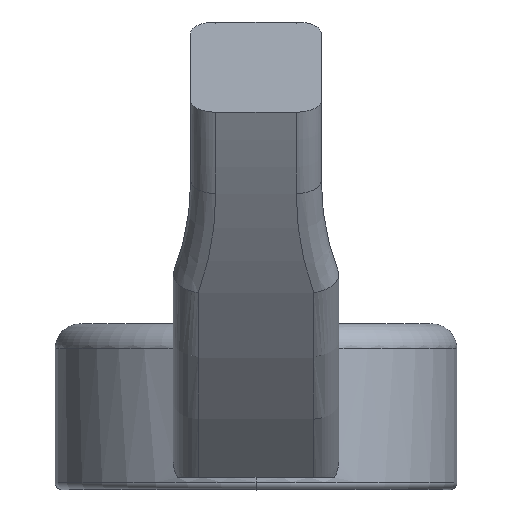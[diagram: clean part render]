
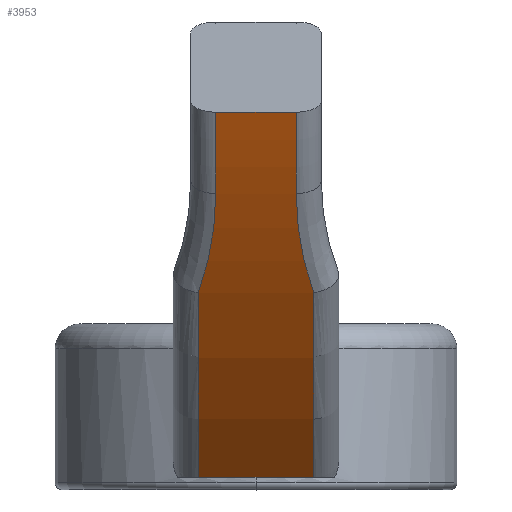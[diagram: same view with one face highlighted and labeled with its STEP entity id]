
A CAD part, top view. The second image highlights one B-rep face of the part: STEP entity #3953.
In plain terms, the highlighted cylindrical face has radius 26 mm (diameter 52 mm), a partial arc.
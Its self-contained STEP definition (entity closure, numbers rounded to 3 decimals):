
#51 = CARTESIAN_POINT ( 'NONE',  ( 0.921, 4.534, 7.741 ) ) ;
#144 = VECTOR ( 'NONE', #769, 1000. ) ;
#162 = ORIENTED_EDGE ( 'NONE', *, *, #3880, .T. ) ;
#239 = CARTESIAN_POINT ( 'NONE',  ( 1.65, 0.238, 4. ) ) ;
#298 = EDGE_LOOP ( 'NONE', ( #3493, #162, #423, #1775, #1126, #2826, #3937, #1821, #2846 ) ) ;
#370 = DIRECTION ( 'NONE',  ( 0., 0., -1. ) ) ;
#382 = EDGE_CURVE ( 'NONE', #454, #3586, #2721, .T. ) ;
#423 = ORIENTED_EDGE ( 'NONE', *, *, #1211, .F. ) ;
#450 = CARTESIAN_POINT ( 'NONE',  ( 1.65, 0.238, 4. ) ) ;
#451 = AXIS2_PLACEMENT_3D ( 'NONE', #2844, #2539, #370 ) ;
#454 = VERTEX_POINT ( 'NONE', #2020 ) ;
#510 = CARTESIAN_POINT ( 'NONE',  ( -0.8, 19.324, -13.656 ) ) ;
#523 = VECTOR ( 'NONE', #3700, 1000. ) ;
#569 = B_SPLINE_CURVE_WITH_KNOTS ( 'NONE', 3,
 ( #3670, #51, #1943, #1921 ),
 .UNSPECIFIED., .F., .F.,
 ( 4, 4 ),
 ( 0., 0.002 ),
 .UNSPECIFIED. ) ;
#593 = VERTEX_POINT ( 'NONE', #3607 ) ;
#769 = DIRECTION ( 'NONE',  ( -1., 0., 0. ) ) ;
#786 = CIRCLE ( 'NONE', #2642, 26. ) ;
#916 = VERTEX_POINT ( 'NONE', #3307 ) ;
#979 = FACE_OUTER_BOUND ( 'NONE', #298, .T. ) ;
#988 = AXIS2_PLACEMENT_3D ( 'NONE', #510, #3526, #3850 ) ;
#1021 = EDGE_CURVE ( 'NONE', #3058, #3175, #1523, .T. ) ;
#1060 = CARTESIAN_POINT ( 'NONE',  ( 1.65, 19.324, -13.656 ) ) ;
#1126 = ORIENTED_EDGE ( 'NONE', *, *, #2485, .T. ) ;
#1177 = CARTESIAN_POINT ( 'NONE',  ( 0.8, 7.5, 9.5 ) ) ;
#1211 = EDGE_CURVE ( 'NONE', #3182, #916, #2617, .T. ) ;
#1356 = EDGE_CURVE ( 'NONE', #3543, #3182, #2640, .T. ) ;
#1467 = EDGE_CURVE ( 'NONE', #593, #3058, #569, .T. ) ;
#1523 = CIRCLE ( 'NONE', #451, 26. ) ;
#1775 = ORIENTED_EDGE ( 'NONE', *, *, #1356, .F. ) ;
#1821 = ORIENTED_EDGE ( 'NONE', *, *, #1995, .T. ) ;
#1921 = CARTESIAN_POINT ( 'NONE',  ( 0.8, 5.879, 8.598 ) ) ;
#1943 = CARTESIAN_POINT ( 'NONE',  ( 0.8, 5.188, 8.181 ) ) ;
#1995 = EDGE_CURVE ( 'NONE', #3175, #454, #2102, .T. ) ;
#2020 = CARTESIAN_POINT ( 'NONE',  ( -0.8, 7.5, 9.5 ) ) ;
#2102 = LINE ( 'NONE', #2155, #523 ) ;
#2155 = CARTESIAN_POINT ( 'NONE',  ( 1.65, 7.5, 9.5 ) ) ;
#2184 = AXIS2_PLACEMENT_3D ( 'NONE', #3736, #2210, #3435 ) ;
#2206 = EDGE_CURVE ( 'NONE', #3586, #3234, #2734, .T. ) ;
#2210 = DIRECTION ( 'NONE',  ( 1., 0., 0. ) ) ;
#2273 = DIRECTION ( 'NONE',  ( -1., 0., 0. ) ) ;
#2420 = CARTESIAN_POINT ( 'NONE',  ( -0.921, 4.534, 7.741 ) ) ;
#2432 = DIRECTION ( 'NONE',  ( 0., 0., -1. ) ) ;
#2472 = CARTESIAN_POINT ( 'NONE',  ( 1.15, 19.324, -13.656 ) ) ;
#2485 = EDGE_CURVE ( 'NONE', #3543, #593, #786, .T. ) ;
#2539 = DIRECTION ( 'NONE',  ( -1., 0., 0. ) ) ;
#2585 = CYLINDRICAL_SURFACE ( 'NONE', #3597, 26. ) ;
#2617 = LINE ( 'NONE', #450, #144 ) ;
#2640 = LINE ( 'NONE', #239, #3011 ) ;
#2642 = AXIS2_PLACEMENT_3D ( 'NONE', #2472, #3649, #2432 ) ;
#2677 = DIRECTION ( 'NONE',  ( -1., 0., 0. ) ) ;
#2699 = CARTESIAN_POINT ( 'NONE',  ( -0.8, 5.879, 8.598 ) ) ;
#2721 = CIRCLE ( 'NONE', #988, 26. ) ;
#2734 = B_SPLINE_CURVE_WITH_KNOTS ( 'NONE', 3,
 ( #3296, #3729, #2420, #3314 ),
 .UNSPECIFIED., .F., .F.,
 ( 4, 4 ),
 ( 0., 0.002 ),
 .UNSPECIFIED. ) ;
#2826 = ORIENTED_EDGE ( 'NONE', *, *, #1467, .T. ) ;
#2844 = CARTESIAN_POINT ( 'NONE',  ( 0.8, 19.324, -13.656 ) ) ;
#2846 = ORIENTED_EDGE ( 'NONE', *, *, #382, .T. ) ;
#3011 = VECTOR ( 'NONE', #2677, 1000. ) ;
#3058 = VERTEX_POINT ( 'NONE', #3499 ) ;
#3175 = VERTEX_POINT ( 'NONE', #1177 ) ;
#3182 = VERTEX_POINT ( 'NONE', #3639 ) ;
#3234 = VERTEX_POINT ( 'NONE', #3920 ) ;
#3296 = CARTESIAN_POINT ( 'NONE',  ( -0.8, 5.879, 8.598 ) ) ;
#3307 = CARTESIAN_POINT ( 'NONE',  ( -1.15, 0.238, 4. ) ) ;
#3314 = CARTESIAN_POINT ( 'NONE',  ( -1.15, 3.911, 7.283 ) ) ;
#3401 = CIRCLE ( 'NONE', #2184, 26. ) ;
#3435 = DIRECTION ( 'NONE',  ( 0., 0., -1. ) ) ;
#3493 = ORIENTED_EDGE ( 'NONE', *, *, #2206, .T. ) ;
#3497 = DIRECTION ( 'NONE',  ( 0., 0., 1. ) ) ;
#3499 = CARTESIAN_POINT ( 'NONE',  ( 0.8, 5.879, 8.598 ) ) ;
#3526 = DIRECTION ( 'NONE',  ( 1., 0., 0. ) ) ;
#3543 = VERTEX_POINT ( 'NONE', #3815 ) ;
#3586 = VERTEX_POINT ( 'NONE', #2699 ) ;
#3597 = AXIS2_PLACEMENT_3D ( 'NONE', #1060, #2273, #3497 ) ;
#3607 = CARTESIAN_POINT ( 'NONE',  ( 1.15, 3.911, 7.283 ) ) ;
#3639 = CARTESIAN_POINT ( 'NONE',  ( 0., 0.238, 4. ) ) ;
#3649 = DIRECTION ( 'NONE',  ( -1., 0., 0. ) ) ;
#3670 = CARTESIAN_POINT ( 'NONE',  ( 1.15, 3.911, 7.283 ) ) ;
#3700 = DIRECTION ( 'NONE',  ( -1., 0., 0. ) ) ;
#3729 = CARTESIAN_POINT ( 'NONE',  ( -0.8, 5.188, 8.181 ) ) ;
#3736 = CARTESIAN_POINT ( 'NONE',  ( -1.15, 19.324, -13.656 ) ) ;
#3815 = CARTESIAN_POINT ( 'NONE',  ( 1.15, 0.238, 4. ) ) ;
#3850 = DIRECTION ( 'NONE',  ( 0., 0., 1. ) ) ;
#3880 = EDGE_CURVE ( 'NONE', #3234, #916, #3401, .T. ) ;
#3920 = CARTESIAN_POINT ( 'NONE',  ( -1.15, 3.911, 7.283 ) ) ;
#3937 = ORIENTED_EDGE ( 'NONE', *, *, #1021, .T. ) ;
#3953 = ADVANCED_FACE ( 'NONE', ( #979 ), #2585, .T. ) ;
